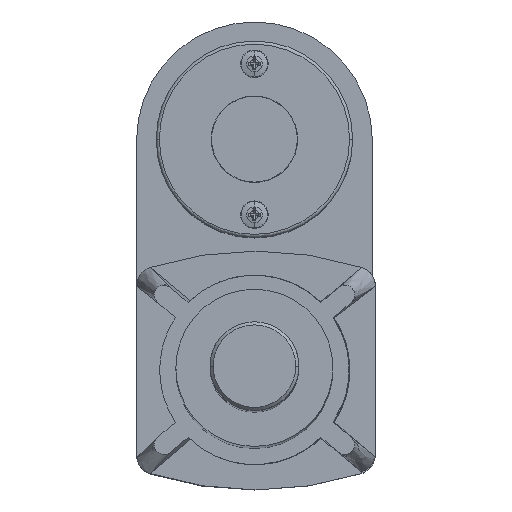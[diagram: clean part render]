
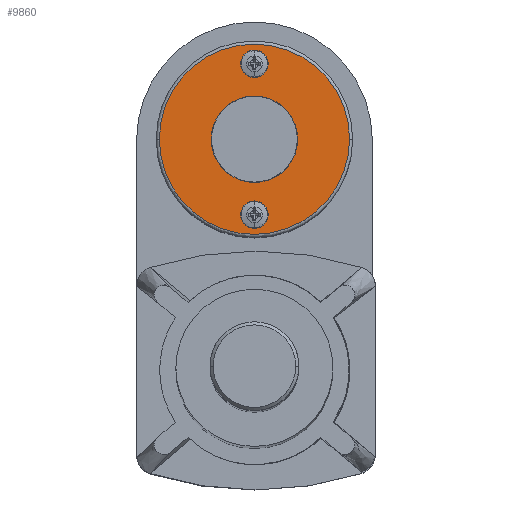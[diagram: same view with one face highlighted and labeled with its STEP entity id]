
A CAD part, top view. The second image highlights one B-rep face of the part: STEP entity #9860.
In plain terms, the highlighted planar face has unit normal (0, 0, 1).
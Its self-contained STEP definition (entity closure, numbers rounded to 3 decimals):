
#44 = DIRECTION ( 'NONE',  ( -1., 0., 0. ) ) ;
#68 = CARTESIAN_POINT ( 'NONE',  ( 38.608, -56.038, 406.098 ) ) ;
#173 = DIRECTION ( 'NONE',  ( -1., 0., 0. ) ) ;
#551 = CIRCLE ( 'NONE', #1688, 2.54 ) ;
#688 = ORIENTED_EDGE ( 'NONE', *, *, #4221, .F. ) ;
#709 = FACE_OUTER_BOUND ( 'NONE', #4527, .T. ) ;
#788 = DIRECTION ( 'NONE',  ( 0., 0., 1. ) ) ;
#796 = CARTESIAN_POINT ( 'NONE',  ( 38.608, -56.038, 406.098 ) ) ;
#900 = CARTESIAN_POINT ( 'NONE',  ( 36.068, -7.238, 406.098 ) ) ;
#1688 = AXIS2_PLACEMENT_3D ( 'NONE', #68, #8831, #5197 ) ;
#1869 = AXIS2_PLACEMENT_3D ( 'NONE', #5425, #4430, #173 ) ;
#1924 = VERTEX_POINT ( 'NONE', #8202 ) ;
#2057 = CARTESIAN_POINT ( 'NONE',  ( 36.068, -56.038, 406.098 ) ) ;
#2876 = FACE_BOUND ( 'NONE', #10856, .T. ) ;
#2937 = CARTESIAN_POINT ( 'NONE',  ( 38.608, -7.238, 406.098 ) ) ;
#3211 = CARTESIAN_POINT ( 'NONE',  ( 41.148, -56.038, 406.098 ) ) ;
#3254 = CARTESIAN_POINT ( 'NONE',  ( 38.608, -7.238, 406.098 ) ) ;
#3411 = AXIS2_PLACEMENT_3D ( 'NONE', #3254, #7790, #5989 ) ;
#3425 = DIRECTION ( 'NONE',  ( 0., 0., 1. ) ) ;
#3475 = CARTESIAN_POINT ( 'NONE',  ( 38.608, -31.638, 406.098 ) ) ;
#3508 = DIRECTION ( 'NONE',  ( 0., 0., 1. ) ) ;
#3990 = FACE_BOUND ( 'NONE', #9027, .T. ) ;
#4221 = EDGE_CURVE ( 'NONE', #7878, #1924, #9068, .T. ) ;
#4270 = DIRECTION ( 'NONE',  ( -1., 0., 0. ) ) ;
#4430 = DIRECTION ( 'NONE',  ( 0., 0., 1. ) ) ;
#4527 = EDGE_LOOP ( 'NONE', ( #5412, #9624 ) ) ;
#4779 = EDGE_CURVE ( 'NONE', #9472, #8471, #6391, .T. ) ;
#4809 = AXIS2_PLACEMENT_3D ( 'NONE', #10461, #788, #4270 ) ;
#4900 = EDGE_CURVE ( 'NONE', #6982, #8290, #9524, .T. ) ;
#5000 = EDGE_CURVE ( 'NONE', #8471, #9472, #6846, .T. ) ;
#5091 = CARTESIAN_POINT ( 'NONE',  ( 69.358, -31.638, 406.098 ) ) ;
#5197 = DIRECTION ( 'NONE',  ( -1., 0., 0. ) ) ;
#5412 = ORIENTED_EDGE ( 'NONE', *, *, #4779, .T. ) ;
#5425 = CARTESIAN_POINT ( 'NONE',  ( 38.608, -31.638, 406.098 ) ) ;
#5505 = DIRECTION ( 'NONE',  ( 0., 0., 1. ) ) ;
#5670 = AXIS2_PLACEMENT_3D ( 'NONE', #2937, #5505, #8926 ) ;
#5989 = DIRECTION ( 'NONE',  ( -1., 0., 0. ) ) ;
#6391 = CIRCLE ( 'NONE', #4809, 30.75 ) ;
#6432 = ORIENTED_EDGE ( 'NONE', *, *, #9650, .F. ) ;
#6846 = CIRCLE ( 'NONE', #1869, 30.75 ) ;
#6982 = VERTEX_POINT ( 'NONE', #3211 ) ;
#7790 = DIRECTION ( 'NONE',  ( 0., 0., 1. ) ) ;
#7878 = VERTEX_POINT ( 'NONE', #900 ) ;
#7999 = ORIENTED_EDGE ( 'NONE', *, *, #10955, .F. ) ;
#8202 = CARTESIAN_POINT ( 'NONE',  ( 41.148, -7.238, 406.098 ) ) ;
#8290 = VERTEX_POINT ( 'NONE', #2057 ) ;
#8324 = CARTESIAN_POINT ( 'NONE',  ( 7.858, -31.638, 406.098 ) ) ;
#8471 = VERTEX_POINT ( 'NONE', #5091 ) ;
#8736 = PLANE ( 'NONE',  #10029 ) ;
#8831 = DIRECTION ( 'NONE',  ( 0., 0., 1. ) ) ;
#8926 = DIRECTION ( 'NONE',  ( -1., 0., 0. ) ) ;
#9027 = EDGE_LOOP ( 'NONE', ( #688, #6432 ) ) ;
#9058 = CIRCLE ( 'NONE', #3411, 2.54 ) ;
#9068 = CIRCLE ( 'NONE', #5670, 2.54 ) ;
#9472 = VERTEX_POINT ( 'NONE', #8324 ) ;
#9524 = CIRCLE ( 'NONE', #10441, 2.54 ) ;
#9564 = DIRECTION ( 'NONE',  ( -1., 0., 0. ) ) ;
#9624 = ORIENTED_EDGE ( 'NONE', *, *, #5000, .T. ) ;
#9650 = EDGE_CURVE ( 'NONE', #1924, #7878, #9058, .T. ) ;
#9860 = ADVANCED_FACE ( 'NONE', ( #2876, #3990, #709 ), #8736, .T. ) ;
#10029 = AXIS2_PLACEMENT_3D ( 'NONE', #3475, #3508, #44 ) ;
#10441 = AXIS2_PLACEMENT_3D ( 'NONE', #796, #3425, #9564 ) ;
#10461 = CARTESIAN_POINT ( 'NONE',  ( 38.608, -31.638, 406.098 ) ) ;
#10794 = ORIENTED_EDGE ( 'NONE', *, *, #4900, .F. ) ;
#10856 = EDGE_LOOP ( 'NONE', ( #7999, #10794 ) ) ;
#10955 = EDGE_CURVE ( 'NONE', #8290, #6982, #551, .T. ) ;
